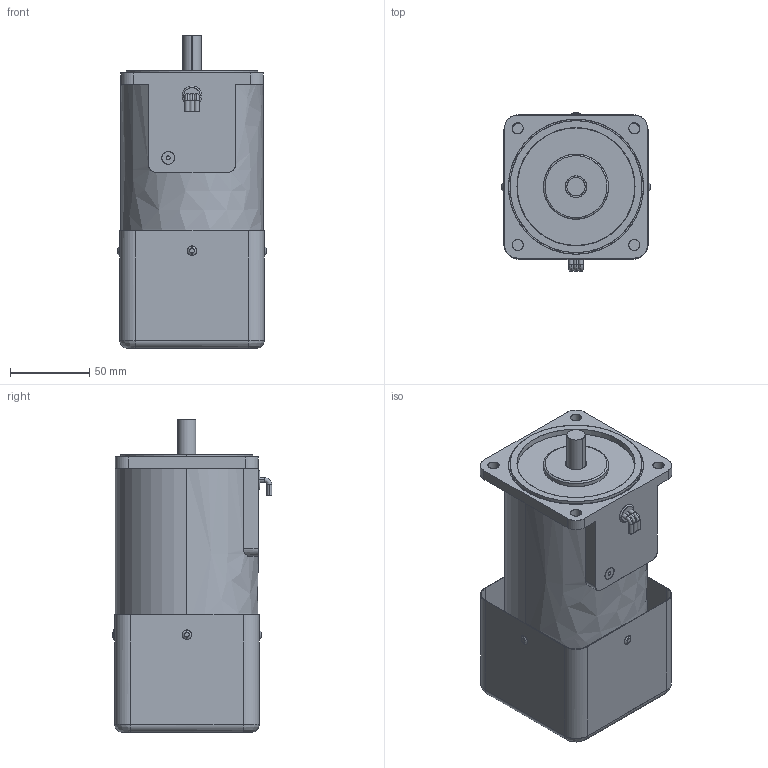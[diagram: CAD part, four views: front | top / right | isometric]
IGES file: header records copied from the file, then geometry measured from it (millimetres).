
Start section: SolidWorks IGES file using analytic representation for surfaces
Global section: file name: \\楷备家烹钦辑滚\data (D)\档搁 枚\权其捞瘤 档搁\6. TORQUE\90\40W\(6-45) 9TDG∴-40F2H.IGS; native system: SolidWorks 2007; preprocessor: SolidWorks 2007; author: user; date: 150625.094829; units: millimetre
Bounding box: 94 x 100.5 x 197 mm (x, y, z)
Surface area: 173705.2 mm2 (no closed solid volume)
Topology: 0 solids, 0 shells, 360 faces, 6429 edges, 6429 vertices
Faces by surface type: revolution 230, bspline 130
